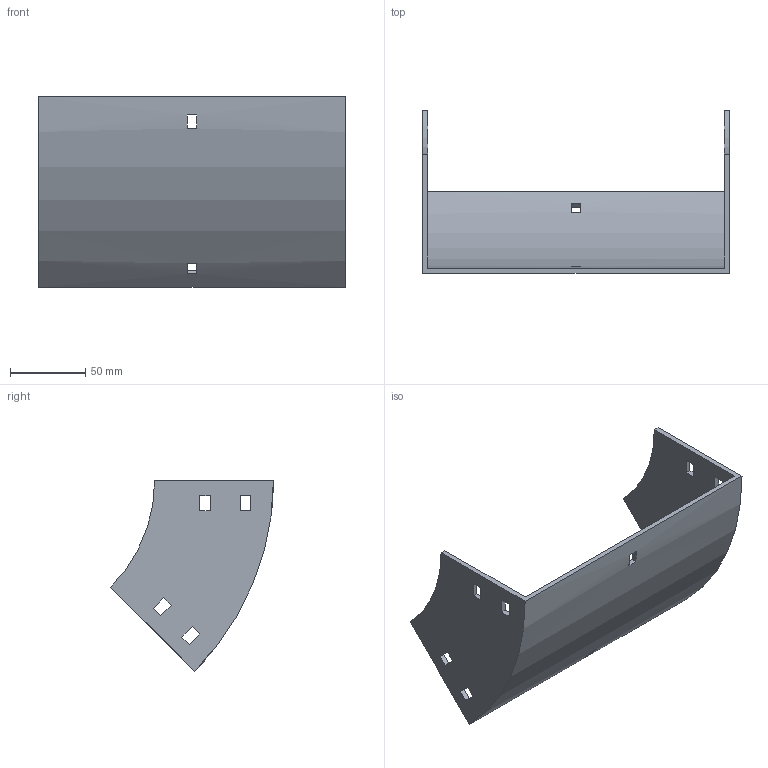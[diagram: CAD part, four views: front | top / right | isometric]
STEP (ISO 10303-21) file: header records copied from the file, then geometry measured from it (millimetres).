
FILE_DESCRIPTION (( 'STEP AP214' ), '1' );
FILE_NAME ('31B1C200.step', '2025-02-21T09:47:41', ( '' ), ( '' ), 'SwSTEP 2.0', 'SolidWorks 2023', '' );
FILE_SCHEMA (( 'AUTOMOTIVE_DESIGN' ));
Length unit declared in the file: millimetre
Products named in the file (1): 31B1C200
Bounding box: 204 x 108.29 x 126.57 mm (x, y, z)
Volume: 154203.6 mm3; surface area: 92330.7 mm2
Topology: 1 solids, 1 shells, 50 faces, 144 edges, 96 vertices
Faces by surface type: plane 46, cylinder 4
Entity records: 1687 total; most frequent: CARTESIAN_POINT 291, ORIENTED_EDGE 288, DIRECTION 262, EDGE_CURVE 144, VECTOR 128, LINE 128, VERTEX_POINT 96, EDGE_LOOP 70
